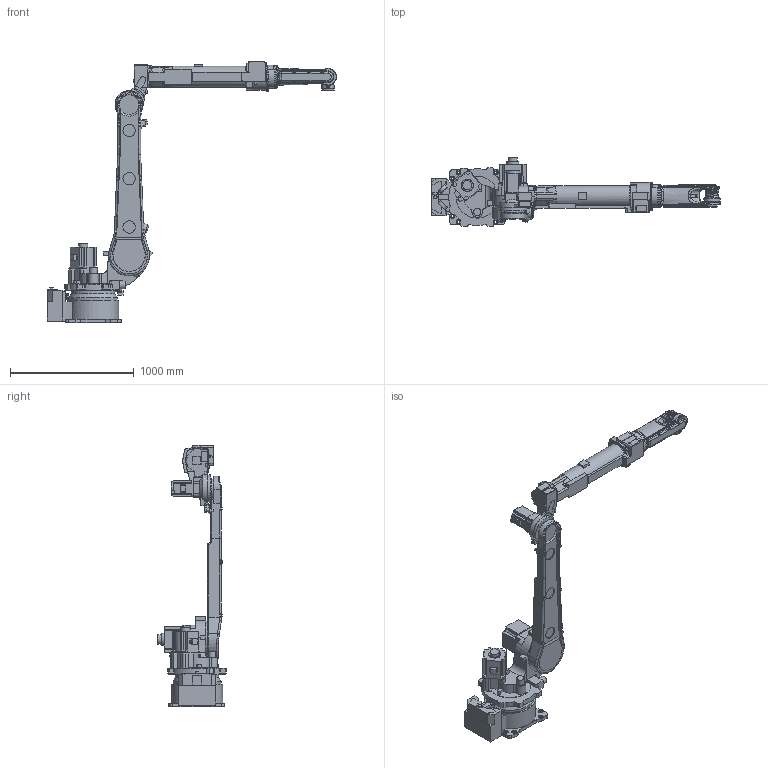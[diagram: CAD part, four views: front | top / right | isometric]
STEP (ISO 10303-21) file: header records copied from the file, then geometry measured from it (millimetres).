
FILE_DESCRIPTION(/* description */ (''),/* implementation_level */ '2;1');
FILE_NAME(/* name */ 'R:\メカ技\210 機構開発G\005_FDシリーズ\NV8LL\033_3Dモデル\外部提出用モデル\青野作成\アップロード用\STEP\FD-V25L.stp',/* time_stamp */ '2023-09-13T13:24:41+09:00',/* author */ ('1055033'),/* organization */ (''),/* preprocessor_version */ 'ST-DEVELOPER v18.1',/* originating_system */ 'Autodesk Inventor 2020',/* authorisation */ '');
FILE_SCHEMA (('AUTOMOTIVE_DESIGN { 1 0 10303 214 3 1 1 }'));
Products named in the file (1): FD-V25L
Bounding box: 2345.23 x 556.18 x 2118 mm (x, y, z)
Volume: 166648024.9 mm3; surface area: 5261115.8 mm2
Topology: 10 solids, 11 shells, 1966 faces, 5118 edges, 3188 vertices
Faces by surface type: plane 829, cylinder 538, bspline 411, torus 95, cone 47, sphere 46
Full cylindrical faces by diameter (mm): 6 x6, 18 x1, 22 x8, 25 x1, 26 x1, 28 x1, 30 x1, 34 x1, 41 x8, 44 x1, 50 x1, 60 x2, 70.5 x1, 75 x2, 80 x2, 90 x1, 99 x1, 100 x5, 102 x1, 120 x1, 130 x1, 159 x1, 160 x1, 181 x1, 184 x1, 221 x1, 294.525 x1, 315 x1, 317 x1, 374 x1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
Entity records: 77155 total; most frequent: CARTESIAN_POINT 29143, ORIENTED_EDGE 10150, DIRECTION 8951, EDGE_CURVE 5075, AXIS2_PLACEMENT_3D 3240, VERTEX_POINT 3188, LINE 2471, VECTOR 2471
